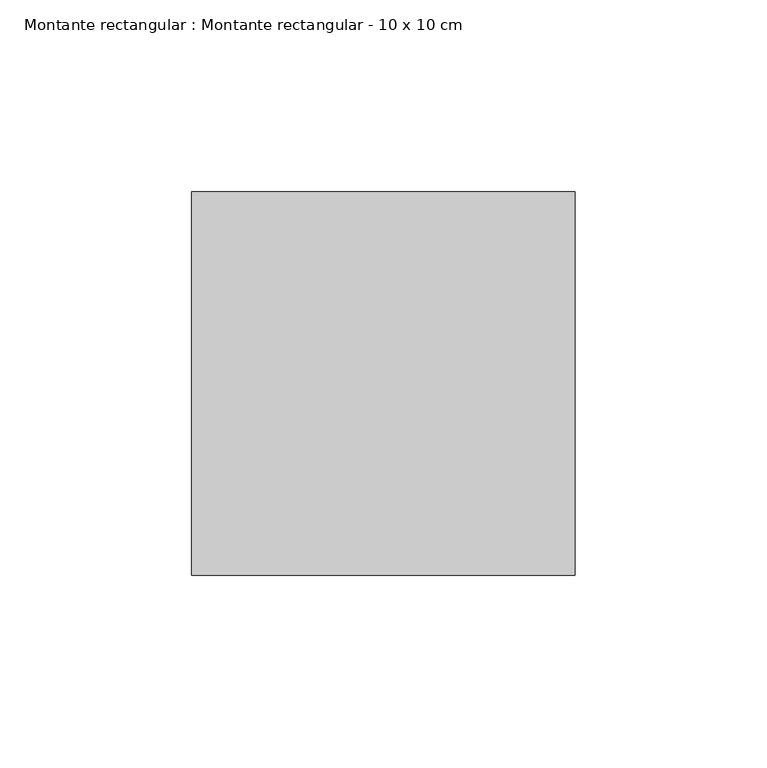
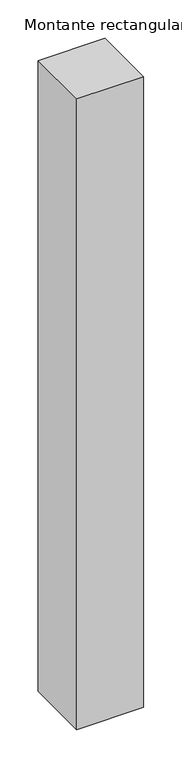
"""IFC4 building model written with IfcOpenShell, lengths in millimetres: member geometry, Montante rectangular : Montante rectangular - 10 x 10 cm."""

from ifc_helpers import new_model, si_unit, frame, origin, place, context, project, spatial, polyline, outline, extrude, source, transform, mapped, element, save


def montante_rectangular_montante_rectangular_10_x_10_cm_939e88b2(model_context):
    return source(origin(), model_context, "Body", "SweptSolid", [
        extrude(outline(polyline([(0.0, 50.0), (0.0, -50.0), (-100.0, -50.0), (-100.0, 50.0), (0.0, 50.0)])), frame((0.0, 0.0, -1000.0), z_axis=(0.0, 0.0, 1.0), x_axis=(1.0, 0.0, 0.0)), (0.0, 0.0, 1.0), 1000.0),
    ])


if __name__ == "__main__":
    model = new_model("IFC4")
    model_context = context("Model", 3, world=origin())
    ifc_project = project(units=[si_unit("LENGTHUNIT", "METRE", prefix="MILLI")], contexts=[model_context])
    site = spatial("IfcSite", under=ifc_project)
    building = spatial("IfcBuilding", under=site)
    placement = place(None, origin())
    montante_rectangular_montante_rectangular_10_x_10_cm_shape = montante_rectangular_montante_rectangular_10_x_10_cm_939e88b2(model_context)
    element("IfcMember", 1, ObjectType="Montante rectangular : Montante rectangular - 10 x 10 cm", at=placement, inside=building, context=model_context, shape_type="MappedRepresentation", body=[
        mapped(montante_rectangular_montante_rectangular_10_x_10_cm_shape, transform((0.0, 0.0, 0.0), x_axis=(1.0, 0.0, 0.0), y_axis=(0.0, 1.0, 0.0), z_axis=(0.0, 0.0, 1.0))),
    ])
    save(model, "model.ifc")
